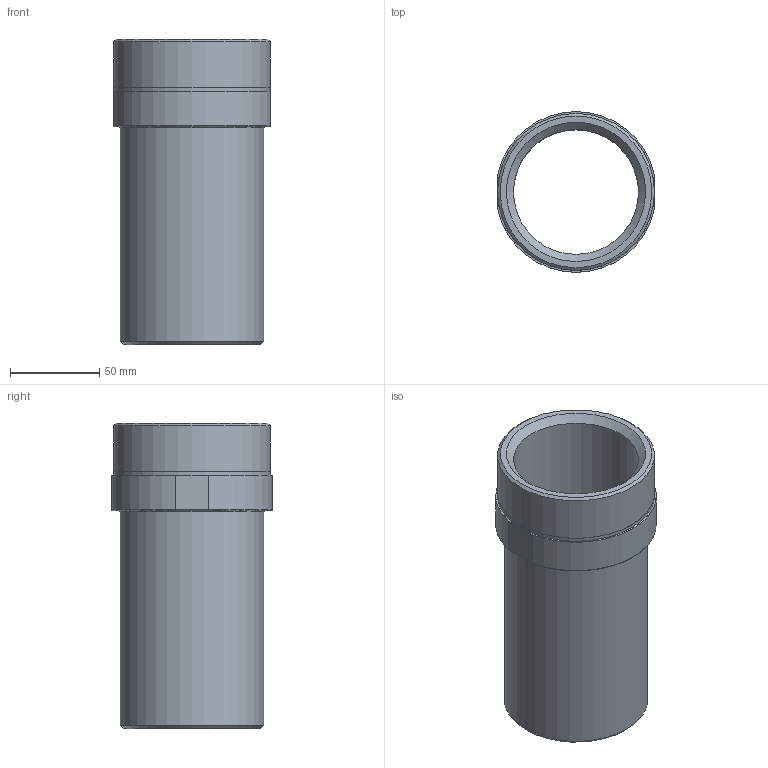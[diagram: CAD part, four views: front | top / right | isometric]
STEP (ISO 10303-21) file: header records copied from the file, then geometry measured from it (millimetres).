
FILE_DESCRIPTION( ( 'STEP AP214' ), '1' );
FILE_NAME( ' ', ' ', ( ' ' ), ( ' ' ), 'PSStep 11.0', 'VISI 17.0', ' ' );
FILE_SCHEMA( ( 'AUTOMOTIVE_DESIGN { 1 0 10303 214 1 1 1 1 }' ) );
Length unit declared in the file: millimetre
Products named in the file (1): 1
Bounding box: 88 x 90 x 171 mm (x, y, z)
Volume: 259852.6 mm3; surface area: 85878.2 mm2
Topology: 1 solids, 1 shells, 22 faces, 45 edges, 27 vertices
Faces by surface type: plane 8, cylinder 8, torus 3, cone 3
Full cylindrical faces by diameter (mm): 70 x1, 80.3 x1, 87.884 x1, 88 x1
Entity records: 727 total; most frequent: CARTESIAN_POINT 103, DIRECTION 96, ORIENTED_EDGE 70, AXIS2_PLACEMENT_3D 42, EDGE_CURVE 35, EDGE_LOOP 34, FACE_OUTER_BOUND 27, VERTEX_POINT 25
